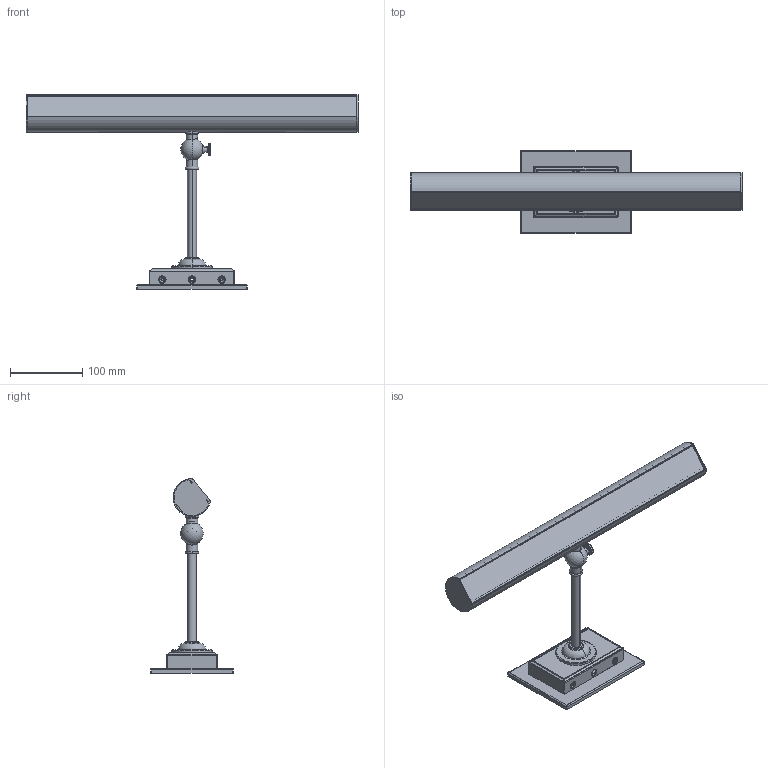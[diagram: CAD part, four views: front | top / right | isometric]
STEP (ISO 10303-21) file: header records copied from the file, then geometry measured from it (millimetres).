
FILE_DESCRIPTION((''),'2;1');
FILE_NAME('PIC118A-E0_ASM','2024-12-18T',('Hugo.Qiu'),(''),'PRO/ENGINEER BY PARAMETRIC TECHNOLOGY CORPORATION, 2009360','PRO/ENGINEER BY PARAMETRIC TECHNOLOGY CORPORATION, 2009360','');
FILE_SCHEMA(('AUTOMOTIVE_DESIGN_CC2 { 1 2 10303 214 -1 1 5 2 }'));
Length unit declared in the file: millimetre
Products named in the file (18): PIC18A-01; PIC118A-02; PIC118A-07; PIC1-03; PIC1-04; PIC118A-06; PIC118A-05; PIC1-11; PIC118A-E2_ASM; WS21718-08; PIC118A-08; PIC18A-09; PIC118A-E1_ASM; 18IN-3000K; PIC118A-10; PD50748-43; PIC18A-13; PIC118A-E0_ASM
Assembly tree (18 placements, depth 3):
  PIC118A-E0_ASM
    PIC18A-01
    PIC118A-02
    PIC118A-07
    PIC118A-E2_ASM
      PIC1-03
      PIC1-04
      PIC118A-06
      PIC118A-05
      PIC1-11
    WS21718-08
    PIC118A-E1_ASM
      PIC118A-08
      PIC18A-09  x2
    18IN-3000K
    PIC118A-10
    PD50748-43
    PIC18A-13
Bounding box: 458 x 114 x 268.4 mm (x, y, z)
Volume: 202897 mm3; surface area: 294253.5 mm2
Topology: 16 solids, 16 shells, 1034 faces, 2569 edges, 1638 vertices
Faces by surface type: plane 632, cylinder 302, torus 50, cone 32, bspline 12, sphere 6
Entity records: 37984 total; most frequent: CARTESIAN_POINT 6052, DIRECTION 5354, ORIENTED_EDGE 5110, EDGE_CURVE 2555, PRESENTATION_STYLE_ASSIGNMENT 2126, STYLED_ITEM 2126, CURVE_STYLE 2115, AXIS2_PLACEMENT_3D 1787
